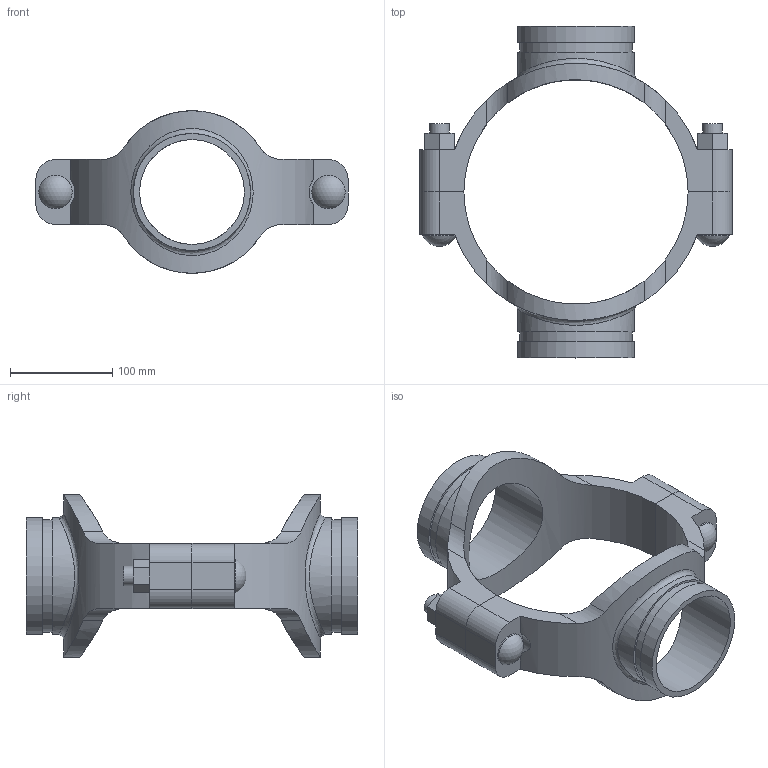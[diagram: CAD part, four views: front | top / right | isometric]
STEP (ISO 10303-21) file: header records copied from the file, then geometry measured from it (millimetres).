
FILE_DESCRIPTION(/* description */ ('VIC MECH-T BRANCH OUTLET CROSS STYLE 920N (GRVD)','CAx-IF Rec.Pracs.---Representation and Presentation of Product Manufacturing Information (PMI)---4.0---2014-10-13'),/* implementation_level */ '2;1');
FILE_NAME(/* name */ 'C:\Users\Vjadhav\AppData\Roaming\Autodesk\ApplicationPlugins\Back Up\Victaulic_IPS_Mechanical-Cross Outlet_Style 920N (OGS)\Victaulic_IPS_Mechanical-Cross Outlet_08.0x04.0x04.0 (200x100x100).stp',/* time_stamp */ '2020-08-06T19:46:06+05:00',/* author */ ('Vjadhav'),/* organization */ ('Victaulic'),/* preprocessor_version */ 'ST-DEVELOPER v17.2',/* originating_system */ 'Autodesk Inventor 2019',/* authorisation */ '');
FILE_SCHEMA (('AP242_MANAGED_MODEL_BASED_3D_ENGINEERING_MIM_LF { 1 0 10303 442 1 1 4 }'));
Length unit declared in the file: inch
Products named in the file (3): 920NG-08.0x04.0x04.0; 920G-08.0x04.0; 920G-08.0x04.0_1
Assembly tree (2 placements, depth 2):
  920NG-08.0x04.0x04.0
    920G-08.0x04.0
    920G-08.0x04.0_1
Bounding box: 304.8 x 324.1 x 158.74 mm (x, y, z)
Volume: 1258012 mm3; surface area: 253447.4 mm2
Topology: 2 solids, 2 shells, 108 faces, 274 edges, 186 vertices
Faces by surface type: plane 54, cylinder 50, sphere 2, bspline 2
Full cylindrical faces by diameter (mm): 19.05 x4, 32.537 x2, 102.394 x2, 110.084 x2, 114.3 x4
Entity records: 4406 total; most frequent: CARTESIAN_POINT 1525, DIRECTION 552, ORIENTED_EDGE 548, EDGE_CURVE 274, AXIS2_PLACEMENT_3D 201, VERTEX_POINT 186, LINE 150, VECTOR 150
